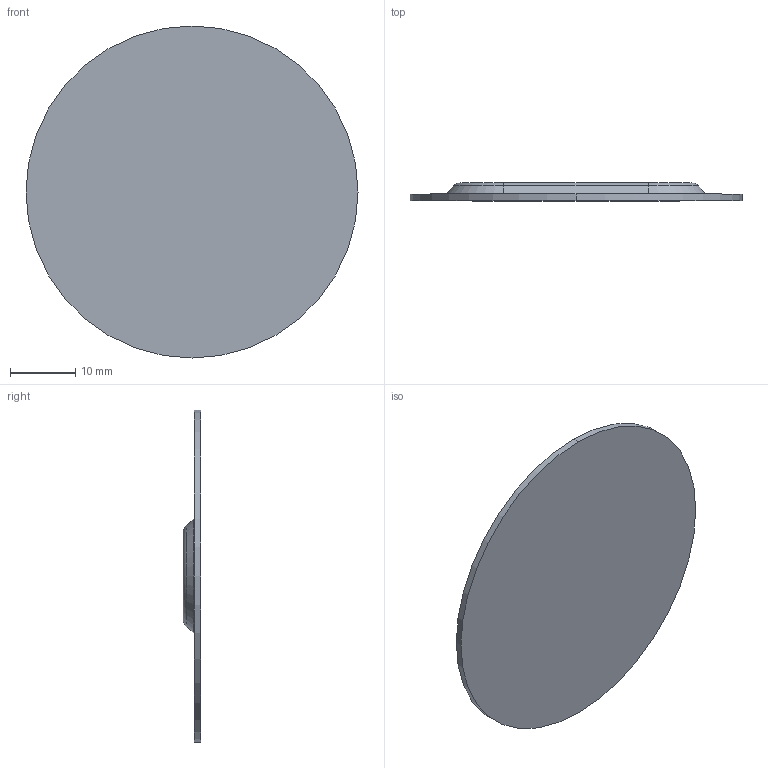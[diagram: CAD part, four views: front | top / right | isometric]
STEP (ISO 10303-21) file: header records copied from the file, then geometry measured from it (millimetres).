
FILE_DESCRIPTION (( 'STEP AP203' ), '1' );
FILE_NAME ('1482756 - 10.STEP', '2024-11-18T15:05:49', ( '' ), ( '' ), 'SwSTEP 2.0', 'SolidWorks 2024', '' );
FILE_SCHEMA (( 'CONFIG_CONTROL_DESIGN' ));
Length unit declared in the file: inch
Products named in the file (1): 1482756 - 10
Bounding box: 50.8 x 2.72 x 50.8 mm (x, y, z)
Volume: 3007.8 mm3; surface area: 4282.5 mm2
Topology: 1 solids, 1 shells, 17 faces, 34 edges, 20 vertices
Faces by surface type: cylinder 6, plane 5, torus 4, cone 2
Entity records: 523 total; most frequent: DIRECTION 90, CARTESIAN_POINT 72, ORIENTED_EDGE 68, AXIS2_PLACEMENT_3D 38, EDGE_CURVE 34, VERTEX_POINT 20, CIRCLE 20, EDGE_LOOP 18
